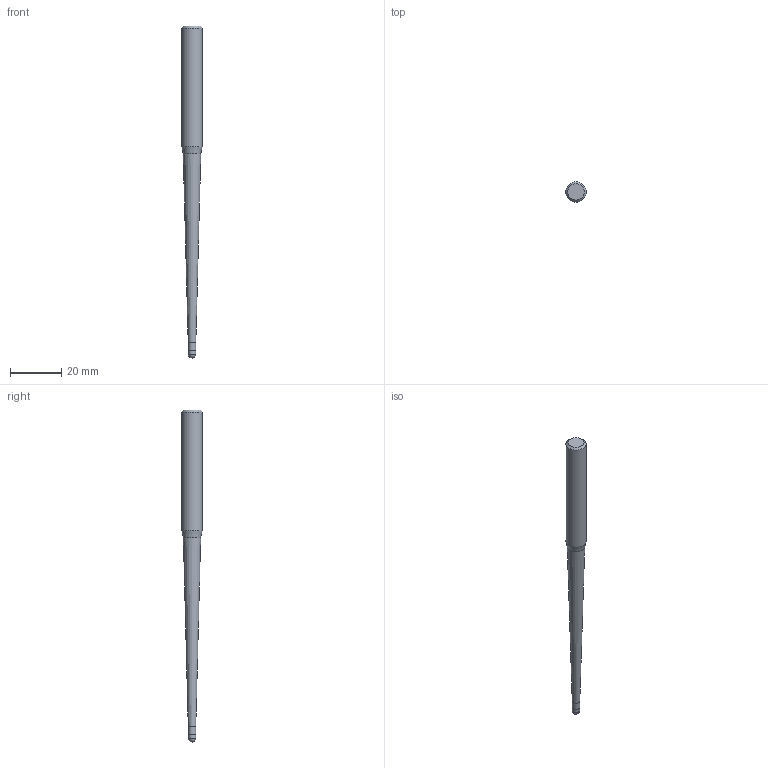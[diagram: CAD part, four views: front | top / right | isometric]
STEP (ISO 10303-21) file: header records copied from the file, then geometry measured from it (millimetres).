
FILE_DESCRIPTION((''),'2;1');
FILE_NAME('C:\Users\nsx150\AppData\Local\Temp\Mastercam 2021\SNAKH10GOD\TEMP.step','2021-10-21T13:33:26',(''),(''),'STEP Write','Mastercam 2021 ... CNC Software, Inc.','');
FILE_SCHEMA(('AUTOMOTIVE_DESIGN'));
Length unit declared in the file: millimetre
Products named in the file (1): None
Bounding box: 8 x 8 x 130 mm (x, y, z)
Volume: 4012.9 mm3; surface area: 2507.9 mm2
Topology: 2 solids, 2 shells, 10 faces, 16 edges, 9 vertices
Faces by surface type: plane 3, cylinder 3, cone 3, sphere 1
Full cylindrical faces by diameter (mm): 2.98 x1, 3 x1, 8 x1
Entity records: 232 total; most frequent: DIRECTION 40, CARTESIAN_POINT 28, AXIS2_PLACEMENT_3D 20, ORIENTED_EDGE 16, EDGE_LOOP 16, STYLED_ITEM 13, ADVANCED_FACE 10, FACE_BOUND 9
